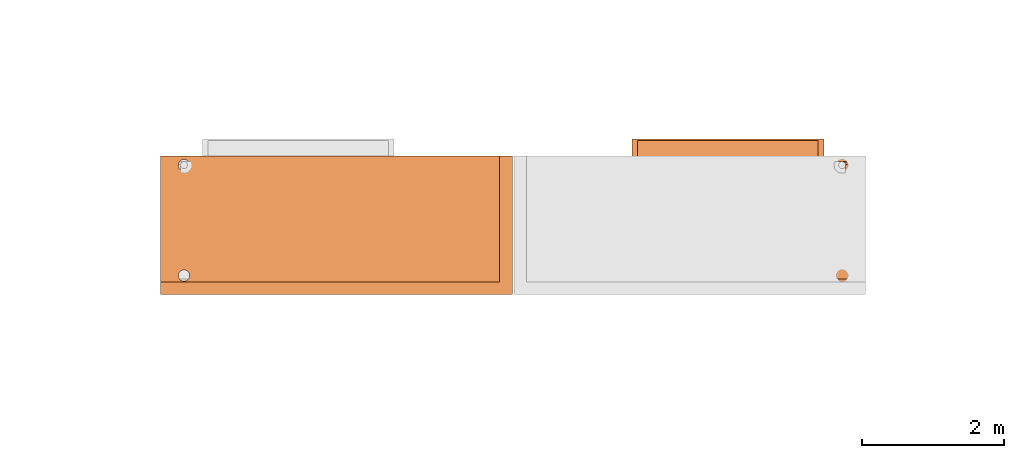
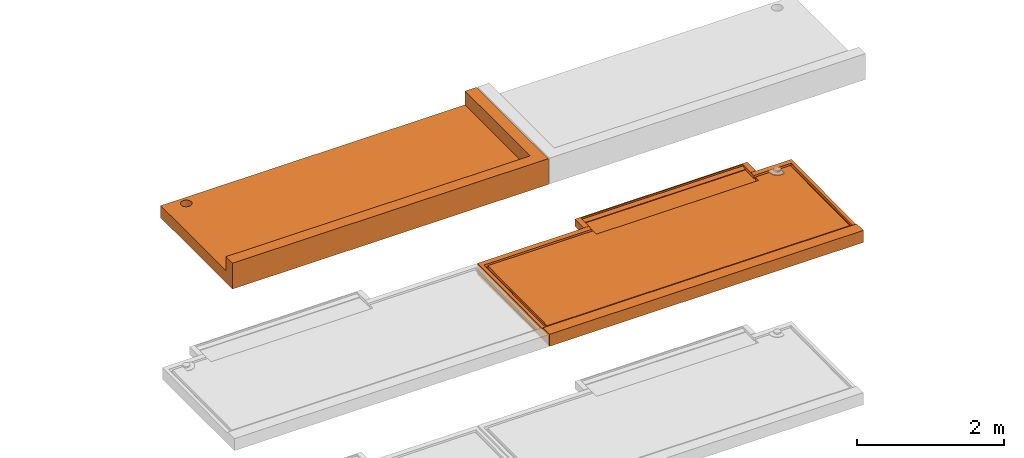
# One storey, part 14 of 31: 2 proxies, 2 elements without a shape of their own.
"""IFC2X3 building model written with IfcOpenShell, lengths in centimetres."""

import ifcopenshell
import ifcopenshell.guid

model = None  # the IFC model being written
_history = None  # IfcOwnerHistory: only IFC2X3 demands one
_inside = {}  # id of a spatial element -> (the spatial element, [elements in it])
_under = {}  # id of a project, library or spatial element -> (it, [spatial elements below it])
_declared = {}  # id of a project -> (the project, [libraries it declares])
_typed = {}  # id of a type object -> (the type object, [elements of that type])
_made_of = {}  # id of a material, layer set ... -> (it, [elements and type objects made of it])


def new_model(schema):
    """Start an empty IFC model of exactly this schema.

    Asked for "IFC4X3", IfcOpenShell would pick the latest addendum, in which some entities
    have other attributes; the version numbers below select the first issue.
    IFC2X3 requires an IfcOwnerHistory on every rooted entity: one is made here for all.
    """
    global model, _history
    if schema == "IFC4X3":
        model = ifcopenshell.file(schema_version=(4, 3, 0, 0))
    else:
        model = ifcopenshell.file(schema=schema)
    _inside.clear()
    _under.clear()
    _declared.clear()
    _typed.clear()
    _made_of.clear()
    _history = None
    if model.schema == "IFC2X3":
        org = make("IfcOrganization", Name="unknown")
        user = make(
            "IfcPersonAndOrganization",
            ThePerson=make("IfcPerson", FamilyName="unknown"),
            TheOrganization=org,
        )
        app = make(
            "IfcApplication",
            ApplicationDeveloper=org,
            Version="unknown",
            ApplicationFullName="unknown",
            ApplicationIdentifier="unknown",
        )
        _history = make(
            "IfcOwnerHistory",
            OwningUser=user,
            OwningApplication=app,
            ChangeAction="ADDED",
            CreationDate=0,
        )
    return model


def make(cls, **values):
    """One entity of the class cls with the attributes given. An attribute that is None is left unset."""
    return model.create_entity(
        cls, **{name: value for name, value in values.items() if value is not None}
    )


def entity(cls, *values):
    """Any entity or typed value of the class cls, its attributes in the order of the schema. None: left unset."""
    e = model.create_entity(cls)
    for i, value in enumerate(values):
        if value is not None:
            e[i] = value
    return e


def rooted(cls, **values):
    """An entity with a GlobalId (a new one), such as an element, a storey or a relation."""
    return make(cls, GlobalId=ifcopenshell.guid.new(), OwnerHistory=_history, **values)


def si_unit(unit_type, name, prefix=None):
    """IfcSIUnit, for example si_unit("LENGTHUNIT", "METRE", prefix="MILLI")."""
    return make("IfcSIUnit", UnitType=unit_type, Prefix=prefix, Name=name)


def converted_unit(unit_type, name, factor, base, dimensions=None, offset=None):
    """IfcConversionBasedUnit, such as the inch: factor (a typed value) times the base unit."""
    return make(
        "IfcConversionBasedUnit"
        if offset is None
        else "IfcConversionBasedUnitWithOffset",
        ConversionOffset=offset,
        Dimensions=None
        if dimensions is None
        else entity("IfcDimensionalExponents", *dimensions),
        UnitType=unit_type,
        Name=name,
        ConversionFactor=make(
            "IfcMeasureWithUnit", ValueComponent=factor, UnitComponent=base
        ),
    )


def derived_unit(unit_type, elements):
    """IfcDerivedUnit: a product of units, each with its exponent."""
    return make(
        "IfcDerivedUnit",
        Elements=[
            make("IfcDerivedUnitElement", Unit=unit, Exponent=power)
            for unit, power in elements
        ],
        UnitType=unit_type,
    )


def assignment(units):
    """IfcUnitAssignment: the units of a project."""
    return None if units is None else make("IfcUnitAssignment", Units=units)


def point(xyz):
    """IfcCartesianPoint."""
    return None if xyz is None else make("IfcCartesianPoint", Coordinates=xyz)


def direction(xyz):
    """IfcDirection."""
    return None if xyz is None else make("IfcDirection", DirectionRatios=xyz)


def frame(location, z_axis=None, x_axis=None):
    """IfcAxis2Placement3D, a coordinate frame: its origin and axes. An axis left out is left unset."""
    return make(
        "IfcAxis2Placement3D",
        Location=point(location),
        Axis=direction(z_axis),
        RefDirection=direction(x_axis),
    )


def origin():
    """The frame at (0, 0, 0) with its axes left unset."""
    return frame((0.0, 0.0, 0.0))


def place(relative_to, where):
    """IfcLocalPlacement: puts the frame where relative to a parent placement (None: the world)."""
    return make(
        "IfcLocalPlacement", PlacementRelTo=relative_to, RelativePlacement=where
    )


def context(
    kind, dimensions, precision=None, world=None, true_north=None, identifier=None
):
    """IfcGeometricRepresentationContext, for example the 3D "Model" context."""
    return make(
        "IfcGeometricRepresentationContext",
        ContextIdentifier=identifier,
        ContextType=kind,
        CoordinateSpaceDimension=dimensions,
        Precision=precision,
        WorldCoordinateSystem=world,
        TrueNorth=true_north,
    )


def subcontext(parent, identifier, kind, view, scale=None):
    """IfcGeometricRepresentationSubContext, for example "Body" below "Model"."""
    return make(
        "IfcGeometricRepresentationSubContext",
        ContextIdentifier=identifier,
        ContextType=kind,
        ParentContext=parent,
        TargetScale=scale,
        TargetView=view,
    )


def project(units=None, contexts=None):
    """IfcProject with its units and contexts."""
    return rooted(
        "IfcProject",
        Name="project",
        RepresentationContexts=contexts,
        UnitsInContext=assignment(units),
    )


def spatial(cls, under=None, at=None, **own):
    """A site, building, storey or space (cls), placed at a placement, below another one or the project."""
    s = rooted(cls, ObjectPlacement=at, **own)
    if under is not None:
        _under.setdefault(under.id(), (under, []))[1].append(s)
    return s


def faces_of(points, faces, orient=None, outer=None):
    """IfcFace entities. A face is a list of loops; a loop is a list of indices into points, from 0.

    orient and outer hold one flag for each loop. By default every Orientation is true, the
    first loop of a face is its IfcFaceOuterBound and the others are IfcFaceBound.
    """
    made = []
    for i, loops in enumerate(faces):
        bounds = []
        for j, loop in enumerate(loops):
            is_outer = j == 0 if outer is None else outer[i][j]
            bounds.append(
                make(
                    "IfcFaceOuterBound" if is_outer else "IfcFaceBound",
                    Bound=make("IfcPolyLoop", Polygon=[points[k] for k in loop]),
                    Orientation=True if orient is None else orient[i][j],
                )
            )
        made.append(make("IfcFace", Bounds=bounds))
    return made


def faceted_brep(points, faces, orient=None, outer=None, voids=None):
    """IfcFacetedBrep: a solid bounded by flat faces; with voids (closed shells), ...WithVoids."""
    shared = [point(p) for p in points]
    hull = make("IfcClosedShell", CfsFaces=faces_of(shared, faces, orient, outer))
    if voids is None:
        return make("IfcFacetedBrep", Outer=hull)
    return make(
        "IfcFacetedBrepWithVoids",
        Outer=hull,
        Voids=[
            make(cls, CfsFaces=faces_of(shared, fs, o, b)) for cls, fs, o, b in voids
        ],
    )


def shape(context_of_items, identifier, shape_type, items):
    """IfcShapeRepresentation: the items that make up one representation, for example the "Body"."""
    return make(
        "IfcShapeRepresentation",
        ContextOfItems=context_of_items,
        RepresentationIdentifier=identifier,
        RepresentationType=shape_type,
        Items=items,
    )


def source(mapping_origin, context_of_items, identifier, shape_type, items):
    """IfcRepresentationMap: a shape defined once, which mapped items show again and again."""
    return make(
        "IfcRepresentationMap",
        MappingOrigin=mapping_origin,
        MappedRepresentation=shape(context_of_items, identifier, shape_type, items),
    )


def transform(
    local_origin,
    x_axis=None,
    y_axis=None,
    z_axis=None,
    scale=None,
    scale2=None,
    scale3=None,
    uniform=True,
):
    """IfcCartesianTransformationOperator3D, or its non-uniform kind. x_axis, y_axis, z_axis: its Axis1, 2, 3."""
    if uniform:
        return make(
            "IfcCartesianTransformationOperator3D",
            Axis1=direction(x_axis),
            Axis2=direction(y_axis),
            LocalOrigin=point(local_origin),
            Scale=scale,
            Axis3=direction(z_axis),
        )
    return make(
        "IfcCartesianTransformationOperator3DnonUniform",
        Axis1=direction(x_axis),
        Axis2=direction(y_axis),
        LocalOrigin=point(local_origin),
        Scale=scale,
        Axis3=direction(z_axis),
        Scale2=scale2,
        Scale3=scale3,
    )


def mapped(mapping_source, mapping_target):
    """IfcMappedItem: shows the shape of a source again, moved by a transform."""
    return make(
        "IfcMappedItem", MappingSource=mapping_source, MappingTarget=mapping_target
    )


def material(Name=None, Category=None):
    """IfcMaterial."""
    return make("IfcMaterial", Name=Name, Category=Category)


def made_of(thing, what):
    """Note that an element or type object is made of a material, layer set ...; save() writes the relation."""
    if what is not None:
        _made_of.setdefault(what.id(), (what, []))[1].append(thing)
    return thing


def type_object(cls, material=None, **own):
    """A type object (cls), such as IfcWallType, which elements share."""
    return made_of(rooted(cls, **own), material)


def type_shapes(of_type, sources):
    """Give a type object the sources (RepresentationMaps) that its elements show as mapped items."""
    of_type.RepresentationMaps = sources


def element(
    cls,
    number,
    at=None,
    inside=None,
    cuts=None,
    type_object=None,
    material=None,
    context=None,
    identifier="Body",
    shape_type=None,
    held_by="IfcProductDefinitionShape",
    body=None,
    shapes=None,
    **own,
):
    """One element of the class cls, such as IfcWall. Its Tag is "e" and its number.

    at: its placement. inside: the storey or other place that contains it. cuts: it is an
    opening in that element (IfcRelVoidsElement). A single representation is given by context,
    identifier, shape_type and body (its items); several are given by shapes. held_by: the class
    of the entity that holds the representations. save() writes the other relations.
    """
    e = rooted(cls, Tag="e%d" % number, ObjectPlacement=at, **own)
    if body is not None:
        shapes = [shape(context, identifier, shape_type, body)]
    if shapes is not None:
        e.Representation = make(held_by, Representations=shapes)
    if inside is not None:
        _inside.setdefault(inside.id(), (inside, []))[1].append(e)
    if cuts is not None:
        rooted(
            "IfcRelVoidsElement", RelatingBuildingElement=cuts, RelatedOpeningElement=e
        )
    if type_object is not None:
        _typed.setdefault(type_object.id(), (type_object, []))[1].append(e)
    return made_of(e, material)


def aggregate(whole, parts):
    """IfcRelAggregates: a whole, such as a stair, and the parts it consists of."""
    return rooted("IfcRelAggregates", RelatingObject=whole, RelatedObjects=parts)


def save(model, path):
    """Write the relations noted so far, then the file.

    IfcRelAggregates (storeys below a building ...), IfcRelContainedInSpatialStructure (elements
    in a storey), IfcRelDefinesByType, IfcRelAssociatesMaterial and IfcRelDeclares: one each for
    every whole, place, type object, material and project.
    """
    for whole, parts in _under.values():
        aggregate(whole, parts)
    for where, things in _inside.values():
        rooted(
            "IfcRelContainedInSpatialStructure",
            RelatedElements=things,
            RelatingStructure=where,
        )
    for kind, things in _typed.values():
        rooted("IfcRelDefinesByType", RelatedObjects=things, RelatingType=kind)
    for what, things in _made_of.values():
        rooted("IfcRelAssociatesMaterial", RelatedObjects=things, RelatingMaterial=what)
    for by, libraries in _declared.values():
        rooted("IfcRelDeclares", RelatingContext=by, RelatedDefinitions=libraries)
    model.write(path)


model = new_model("IFC2X3")

# Units and contexts
model_context = context("Model", 3, precision=0.001, world=origin(), true_north=direction((6.12303176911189e-17, 1.0)))
body_context = subcontext(model_context, "Body", "Model", "MODEL_VIEW")
ifc_project = project(units=[si_unit("LENGTHUNIT", "METRE", prefix="CENTI"), si_unit("AREAUNIT", "SQUARE_METRE"), si_unit("VOLUMEUNIT", "CUBIC_METRE"), converted_unit("PLANEANGLEUNIT", "DEGREE", entity("IfcRatioMeasure", 0.0174532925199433), si_unit("PLANEANGLEUNIT", "RADIAN"), dimensions=[0, 0, 0, 0, 0, 0, 0]), si_unit("MASSUNIT", "GRAM", prefix="KILO"), derived_unit("MASSDENSITYUNIT", [(si_unit("MASSUNIT", "GRAM", prefix="KILO"), 1), (si_unit("LENGTHUNIT", "METRE"), -3)]), si_unit("TIMEUNIT", "SECOND"), si_unit("FREQUENCYUNIT", "HERTZ"), si_unit("THERMODYNAMICTEMPERATUREUNIT", "DEGREE_CELSIUS"), derived_unit("THERMALTRANSMITTANCEUNIT", [(si_unit("MASSUNIT", "GRAM", prefix="KILO"), 1), (si_unit("THERMODYNAMICTEMPERATUREUNIT", "KELVIN"), -1), (si_unit("TIMEUNIT", "SECOND"), -3)]), derived_unit("VOLUMETRICFLOWRATEUNIT", [(si_unit("LENGTHUNIT", "METRE"), 3), (si_unit("TIMEUNIT", "SECOND"), -1)]), si_unit("ELECTRICCURRENTUNIT", "AMPERE"), si_unit("ELECTRICVOLTAGEUNIT", "VOLT"), si_unit("POWERUNIT", "WATT"), si_unit("FORCEUNIT", "NEWTON"), si_unit("ILLUMINANCEUNIT", "LUX"), si_unit("LUMINOUSFLUXUNIT", "LUMEN"), si_unit("LUMINOUSINTENSITYUNIT", "CANDELA"), derived_unit("USERDEFINED", [(si_unit("MASSUNIT", "GRAM", prefix="KILO"), -1), (si_unit("LENGTHUNIT", "METRE"), -2), (si_unit("TIMEUNIT", "SECOND"), 3), (si_unit("LUMINOUSFLUXUNIT", "LUMEN"), 1)]), derived_unit("LINEARVELOCITYUNIT", [(si_unit("LENGTHUNIT", "METRE"), 1), (si_unit("TIMEUNIT", "SECOND"), -1)]), si_unit("PRESSUREUNIT", "PASCAL"), derived_unit("USERDEFINED", [(si_unit("LENGTHUNIT", "METRE"), -2), (si_unit("MASSUNIT", "GRAM", prefix="KILO"), 1), (si_unit("TIMEUNIT", "SECOND"), -2)])], contexts=[model_context])

# Site, building, storey
site_placement = place(None, origin())
site = spatial("IfcSite", under=ifc_project, at=site_placement, Name="Default", CompositionType="ELEMENT")
building_placement = place(site_placement, origin())
building = spatial("IfcBuilding", under=site, at=building_placement, Name="CAGE 03", CompositionType="ELEMENT")
storey_placement = place(building_placement, frame((0.0, 0.0, -400.0)))
storey = spatial("IfcBuildingStorey", under=building, at=storey_placement, Name="±0.00", CompositionType="ELEMENT", Elevation=-400.0)

# Assembly, proxy
assembly_1_placement = place(storey_placement, origin())
assembly_1 = element("IfcElementAssembly", 1, at=assembly_1_placement, inside=storey, Name="Assemblage Modèles génériques:BALCON TYPE 02", ObjectType="Assemblage Modèles génériques:BALCON TYPE 02", AssemblyPlace="NOTDEFINED", PredefinedType="USERDEFINED")
ifc_material = material(Name="Béton, panneaux préfa 30/37")
building_element_proxy_type_1 = type_object("IfcBuildingElementProxyType", Name="balcon préfa type 02", PredefinedType="NOTDEFINED", material=ifc_material)
shared_shape_1 = source(origin(), body_context, "Body", "Brep", [
    faceted_brep([(5.4374433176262, 18.437443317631, 15.0), (488.562556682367, 18.4374433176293, 15.0), (488.562556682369, 187.562556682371, 15.0), (466.045257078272, 187.562556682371, 15.0), (467.059340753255, 186.954798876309, 15.0), (467.902378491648, 186.125930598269, 15.0), (468.527236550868, 185.122293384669, 15.0), (468.89897948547, 184.0, 15.0), (485.0, 184.0, 15.0), (485.0, 22.0, 15.0), (9.0, 22.0, 15.0), (9.0, 184.0, 15.0), (175.0, 184.0, 15.0), (175.0, 177.0, 15.0), (430.0, 177.0, 15.0), (430.0, 184.0, 15.0), (452.543560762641, 184.0, 15.0), (452.850476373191, 185.817467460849, 15.0), (453.44381335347, 187.562556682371, 15.0), (430.0, 187.562556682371, 15.0), (430.0, 211.0, 15.0), (175.0, 211.0, 15.0), (175.0, 187.562556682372, 15.0), (5.43744331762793, 187.562556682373, 15.0), (167.0, 196.0, 20.0), (175.0, 196.0, 20.0), (175.0, 218.0, 20.0), (430.0, 218.0, 20.0), (430.0, 196.0, 20.0), (438.0, 196.0, 20.0), (438.0, 212.0, 20.0), (438.0, 220.0, 20.0), (167.0, 220.0, 20.0), (167.0, 212.0, 20.0), (494.0, 0.0, 20.0), (494.0, 18.0, 20.0), (0.0, 18.0, 20.0), (0.0, 0.0, 20.0), (167.0, 220.0, 8.0), (438.0, 220.0, 8.0), (4.0, 194.0, 0.0), (4.0, 196.0, 0.0), (459.0, 183.0, 0.0), (459.170370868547, 181.705904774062, 0.0), (4.0, 4.0, 0.0), (459.170370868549, 184.294095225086, 0.0), (459.669872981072, 185.499999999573, 0.0), (460.464466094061, 186.535533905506, 0.0), (461.499999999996, 187.330127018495, 0.0), (462.705904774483, 187.829629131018, 0.0), (490.0, 196.0, 0.0), (464.0, 188.0, 0.0), (465.294095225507, 187.829629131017, 0.0), (466.499999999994, 187.330127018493, 0.0), (467.535533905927, 186.535533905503, 0.0), (490.0, 194.0, 0.0), (468.330127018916, 185.499999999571, 0.0), (468.829629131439, 184.294095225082, 0.0), (469.0, 183.0, 0.0), (468.829629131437, 181.705904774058, 0.0), (468.330127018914, 180.499999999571, 0.0), (467.535533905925, 179.464466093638, 0.0), (490.0, 4.0, 0.0), (459.66987298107, 180.499999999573, 0.0), (460.46446609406, 179.464466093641, 0.0), (461.499999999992, 178.669872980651, 0.0), (462.705904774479, 178.170370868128, 0.0), (464.0, 178.0, 0.0), (466.499999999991, 178.669872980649, 0.0), (465.294095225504, 178.170370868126, 0.0), (0.0, 196.0, 0.0), (3.0, 196.0, 0.0), (3.0, 194.0, 0.0), (3.0, 3.0, 0.0), (491.0, 3.0, 0.0), (491.0, 194.0, 0.0), (491.0, 196.0, 0.0), (494.0, 196.0, 0.0), (494.0, 194.0, 0.0), (494.0, 0.0, 0.0), (0.0, 0.0, 0.0), (0.0, 194.0, 0.0), (0.0, 18.1897047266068, 17.83166505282), (5.18970472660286, 18.1897047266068, 17.83166505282), (5.04116008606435, 187.958839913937, 19.5295380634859), (175.0, 187.958839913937, 19.5295380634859), (175.0, 194.0, 19.5899561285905), (175.0, 196.0, 19.6099582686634), (167.0, 196.0, 19.6099582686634), (0.0, 196.0, 19.6099582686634), (0.0, 194.0, 19.5899561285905), (9.0, 22.0, 17.8697720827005), (485.0, 22.0, 17.8697720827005), (485.0, 184.0, 19.4899454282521), (468.898979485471, 184.0, 19.4899454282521), (468.974680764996, 183.502544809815, 19.4849703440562), (469.0, 183.0, 19.4799443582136), (469.0, 172.643842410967, 19.3763717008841), (466.460376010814, 171.766276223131, 19.3675950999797), (463.786434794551, 171.501983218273, 19.3649518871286), (461.124152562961, 171.865391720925, 19.3685863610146), (458.618869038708, 172.836662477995, 19.3783001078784), (456.40735304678, 174.362771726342, 19.3935628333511), (454.610336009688, 176.360405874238, 19.413541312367), (453.325920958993, 178.72050976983, 19.437144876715), (452.624226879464, 181.31424025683, 19.4630849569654), (452.543560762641, 184.0, 19.4899454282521), (430.0, 184.0, 19.4899454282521), (430.0, 174.975098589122, 19.3996867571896), (175.0, 174.975098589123, 19.3996867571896), (175.0, 184.0, 19.4899454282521), (9.0, 184.0, 19.4899454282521), (438.0, 196.0, 19.6099582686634), (430.0, 196.0, 19.6099582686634), (430.0, 194.0, 19.5899561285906), (430.0, 187.958839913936, 19.5295380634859), (453.62407080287, 187.958839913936, 19.5295380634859), (453.633936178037, 187.979429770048, 19.5297439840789), (453.643842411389, 188.0, 19.5299497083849), (464.0, 188.0, 19.5299497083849), (464.320780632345, 187.989699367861, 19.5298466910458), (464.640239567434, 187.958839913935, 19.5295380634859), (488.958839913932, 187.958839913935, 19.5295380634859), (488.810295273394, 18.1897047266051, 17.83166505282), (494.0, 18.1897047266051, 17.83166505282), (494.0, 194.0, 19.5899561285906), (494.0, 196.0, 19.6099582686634), (430.0, 211.0, 15.9713250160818), (430.0, 218.0, 17.4999999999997), (430.0, 177.0, 16.9198129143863), (430.0, 175.0001000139, 16.8998117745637), (453.532066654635, 187.761551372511, 17.2745197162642), (453.578068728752, 187.860195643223, 18.4020288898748), (453.601069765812, 187.90951777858, 18.96578347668), (453.612570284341, 187.934178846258, 19.2476607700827), (453.487940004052, 187.662054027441, 16.137259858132), (465.001449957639, 187.898683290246, 18.8419447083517), (465.357288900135, 187.81225174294, 17.8540276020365), (465.705847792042, 187.700008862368, 16.5710856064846), (4.0, 4.0, 1.46630765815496), (490.0, 4.0, 1.46630765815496), (491.0, 3.0, 1.0), (3.0, 3.0, 1.0), (175.0, 218.0, 17.4999999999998), (167.0, 212.0, 8.0), (438.0, 212.0, 8.0), (438.0, 196.0, 8.0), (167.0, 196.0, 8.0), (491.0, 196.0, 1.0), (490.0, 196.0, 1.46630765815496), (4.0, 196.0, 1.46630765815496), (3.0, 196.0, 1.0), (175.0, 175.000100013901, 16.8998117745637), (175.0, 177.0, 16.9198129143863), (175.0, 211.0, 15.9713250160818), (491.0, 194.0, 1.0), (490.0, 194.0, 1.46630765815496), (3.0, 194.0, 1.0), (4.0, 194.0, 1.46630765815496), (452.735578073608, 185.315771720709, 7.69999999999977), (452.51127287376, 182.490933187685, 7.69999999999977), (452.984546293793, 179.697004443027, 7.69999999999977), (454.12666186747, 177.103628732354, 7.69999999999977), (455.868272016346, 174.868272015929, 7.69999999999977), (458.103628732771, 173.126661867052, 7.69999999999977), (460.697004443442, 171.984546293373, 7.69999999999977), (463.4909331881, 171.51127287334, 7.69999999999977), (466.315771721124, 171.735578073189, 7.69999999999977), (469.0, 172.643842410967, 7.69999999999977), (469.0, 183.0, 7.69999999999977), (468.829629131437, 181.705904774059, 7.69999999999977), (468.330127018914, 180.499999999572, 7.69999999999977), (467.535533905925, 179.464466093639, 7.69999999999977), (466.499999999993, 178.66987298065, 7.69999999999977), (465.294095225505, 178.170370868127, 7.69999999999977), (464.0, 178.0, 7.69999999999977), (462.705904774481, 178.170370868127, 7.69999999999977), (461.499999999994, 178.66987298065, 7.69999999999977), (460.464466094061, 179.464466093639, 7.69999999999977), (459.66987298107, 180.499999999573, 7.69999999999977), (459.170370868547, 181.70590477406, 7.69999999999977), (459.0, 183.0, 7.69999999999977), (459.170370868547, 184.294095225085, 7.69999999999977), (459.66987298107, 185.499999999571, 7.69999999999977), (460.46446609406, 186.535533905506, 7.69999999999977), (461.499999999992, 187.330127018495, 7.69999999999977), (462.705904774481, 187.829629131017, 7.69999999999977), (464.0, 188.0, 7.69999999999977), (453.643842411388, 188.0, 7.69999999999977), (453.643842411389, 188.0, 19.1602666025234), (453.643842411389, 188.0, 18.7905765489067), (453.643842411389, 188.0, 18.0512103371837), (453.643842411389, 188.0, 16.5724640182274), (453.643842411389, 188.0, 15.0937176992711), (453.643842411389, 188.0, 13.6149713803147)], [[[0, 1, 2, 3, 4, 5, 6, 7, 8, 9, 10, 11, 12, 13, 14, 15, 16, 17, 18, 19, 20, 21, 22, 23]], [[24, 25, 26, 27, 28, 29, 30, 31, 32, 33]], [[34, 35, 36, 37]], [[38, 32, 31, 39]], [[40, 41, 42]], [[43, 40, 42]], [[43, 44, 40]], [[42, 41, 45]], [[45, 41, 46]], [[47, 46, 41]], [[48, 47, 41]], [[49, 48, 41]], [[41, 50, 49]], [[51, 49, 50]], [[52, 51, 50]], [[53, 52, 50]], [[50, 54, 53]], [[50, 55, 54]], [[56, 54, 55]], [[55, 57, 56]], [[58, 57, 55]], [[59, 58, 55]], [[55, 60, 59]], [[60, 55, 61]], [[61, 55, 62]], [[62, 44, 63]], [[62, 63, 64]], [[62, 64, 65]], [[62, 65, 66]], [[62, 66, 67]], [[61, 62, 68]], [[69, 68, 62]], [[69, 62, 67]], [[63, 44, 43]], [[70, 71, 72, 73, 74, 75, 76, 77, 78, 79, 80, 81]], [[37, 80, 79, 34]], [[82, 83, 84, 85, 86, 87, 88, 89, 90]], [[91, 92, 93, 94, 95, 96, 97, 98, 99, 100, 101, 102, 103, 104, 105, 106, 107, 108, 109, 110, 111]], [[112, 113, 114, 115, 116, 117, 118, 119, 120, 121, 122, 123, 124, 125, 126]], [[78, 77, 126, 125, 124, 35, 34, 79]], [[123, 1, 0, 83, 82, 36, 35, 124]], [[127, 20, 19, 115, 114, 113, 28, 27, 128]], [[107, 15, 14, 129, 130, 108]], [[85, 84, 23, 22]], [[131, 132, 133, 134, 116, 115, 19, 18, 135]], [[122, 121, 136, 137, 138, 3, 2]], [[10, 9, 92, 91]], [[139, 140, 141, 142]], [[26, 143, 128, 27]], [[144, 38, 39, 145, 146, 147]], [[89, 88, 147, 146, 112, 126, 77, 76, 148, 149, 50, 41, 150, 151, 71, 70]], [[152, 109, 108, 130]], [[153, 152, 130, 129]], [[13, 153, 129, 14]], [[80, 37, 36, 82, 90, 89, 70, 81]], [[143, 26, 25, 87, 86, 85, 22, 21, 154]], [[110, 109, 152, 153, 13, 12]], [[12, 11, 111, 110]], [[16, 15, 107, 106]], [[8, 7, 94, 93]], [[142, 141, 74, 73]], [[139, 44, 62, 140]], [[143, 154, 127, 128]], [[154, 21, 20, 127]], [[11, 10, 91, 111]], [[23, 84, 83, 0]], [[29, 28, 113, 112]], [[25, 24, 88, 87]], [[76, 75, 74, 141, 155, 148]], [[156, 140, 62, 55, 50, 149]], [[155, 141, 140, 156, 149, 148]], [[73, 72, 71, 151, 157, 142]], [[158, 150, 41, 40, 44, 139]], [[139, 142, 157, 151, 150, 158]], [[92, 9, 8, 93]], [[123, 122, 2, 1]], [[30, 29, 112, 146, 145, 39, 31]], [[33, 32, 38, 144, 147, 88, 24]], [[159, 160, 161, 162, 163, 164, 165, 166, 167, 168, 169, 170, 171, 172, 173, 174, 175, 176, 177, 178, 179, 180, 181, 182, 183, 184, 185, 186, 187, 188]], [[187, 119, 118, 189, 190, 191, 192, 193, 194, 188]], [[194, 18, 17]], [[159, 188, 17]], [[134, 189, 117]], [[135, 192, 131]], [[105, 160, 16]], [[17, 16, 159]], [[160, 159, 16]], [[105, 161, 160]], [[117, 116, 134]], [[189, 133, 190]], [[132, 191, 190]], [[16, 106, 105]], [[104, 161, 105]], [[133, 132, 190]], [[134, 133, 189]], [[188, 194, 17]], [[104, 162, 161]], [[163, 162, 103]], [[163, 102, 164]], [[99, 167, 166]], [[166, 165, 100]], [[165, 164, 101]], [[168, 167, 98]], [[132, 131, 191]], [[163, 103, 102]], [[164, 102, 101]], [[18, 193, 135]], [[18, 194, 193]], [[167, 99, 98]], [[118, 117, 189]], [[192, 191, 131]], [[97, 168, 98]], [[166, 100, 99]], [[100, 165, 101]], [[192, 135, 193]], [[104, 103, 162]], [[169, 168, 97, 96]], [[48, 49, 186, 185]], [[48, 185, 184, 47]], [[45, 46, 183, 182]], [[184, 183, 46, 47]], [[42, 45, 182, 181]], [[51, 187, 186, 49]], [[63, 43, 180, 179]], [[63, 179, 178, 64]], [[66, 65, 177, 176]], [[178, 177, 65, 64]], [[67, 66, 176, 175]], [[181, 180, 43, 42]], [[174, 69, 67, 175]], [[68, 69, 174, 173]], [[171, 170, 59, 60]], [[60, 61, 172, 171]], [[61, 68, 173, 172]], [[58, 59, 170, 169]], [[96, 95, 169]], [[7, 169, 95]], [[94, 7, 95]], [[57, 169, 7]], [[57, 58, 169]], [[6, 56, 57]], [[56, 6, 5]], [[5, 54, 56]], [[187, 51, 52]], [[53, 54, 4]], [[53, 3, 52]], [[5, 4, 54]], [[52, 136, 187]], [[53, 4, 3]], [[3, 138, 52]], [[136, 52, 137]], [[136, 121, 187]], [[137, 52, 138]], [[121, 120, 187]], [[187, 120, 119]], [[57, 7, 6]]]),
])
type_shapes(building_element_proxy_type_1, [shared_shape_1])
proxy_1_placement = place(assembly_1_placement, frame((8789.36582014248, 4474.66066607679, 990.0)))
proxy_1 = element("IfcBuildingElementProxy", 2, at=proxy_1_placement, type_object=building_element_proxy_type_1, material=ifc_material, Name="BY_STR_Balcon_préfa_02:balcon préfa type 02", ObjectType="balcon préfa type 02", context=body_context, shape_type="MappedRepresentation", body=[
    mapped(shared_shape_1, transform((0.0, 0.0, 0.0), scale=1.0)),
])
aggregate(assembly_1, [proxy_1])

assembly_2_placement = place(storey_placement, origin())
assembly_2 = element("IfcElementAssembly", 3, at=assembly_2_placement, inside=storey, Name="Assemblage Modèles génériques:BALCON TYPE 09", ObjectType="Assemblage Modèles génériques:BALCON TYPE 09", AssemblyPlace="NOTDEFINED", PredefinedType="USERDEFINED")
building_element_proxy_type_2 = type_object("IfcBuildingElementProxyType", Name="balcon préfa type 09", PredefinedType="NOTDEFINED", material=ifc_material)
shared_shape_2 = source(origin(), body_context, "Body", "Brep", [
    faceted_brep([(2.0, 3.0, 0.0), (494.0, 3.0, 0.0), (494.0, 194.0, 0.0), (494.0, 196.0, 0.0), (497.0, 196.0, 0.0), (497.0, 194.0, 0.0), (497.0, 0.0, 0.0), (2.0, 0.0, 0.0), (0.0, 0.0, 0.0), (0.0, 3.0, 0.0), (2.0, 196.0, 0.0), (26.0717967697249, 179.0, 0.0), (0.0, 196.0, 0.0), (25.2725933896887, 180.929447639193, 0.0), (25.0, 183.0, 0.0), (25.2725933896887, 185.070552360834, 0.0), (26.0717967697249, 187.0, 0.0), (27.3431457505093, 188.656854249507, 0.0), (29.0, 189.928203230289, 0.0), (30.9294476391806, 190.727406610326, 0.0), (33.0, 191.0, 0.0), (35.0705523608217, 190.727406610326, 0.0), (493.0, 196.0, 0.0), (37.0, 189.928203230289, 0.0), (38.6568542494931, 188.656854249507, 0.0), (39.9282032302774, 187.0, 0.0), (40.7274066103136, 185.070552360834, 0.0), (41.0, 183.0, 0.0), (493.0, 194.0, 0.0), (40.7274066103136, 180.929447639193, 0.0), (40.7274066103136, 29.0705523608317, 0.0), (493.0, 4.0, 0.0), (41.0, 27.0, 0.0), (40.7274066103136, 24.9294476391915, 0.0), (39.9282032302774, 23.0, 0.0), (38.6568542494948, 21.3431457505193, 0.0), (37.0, 20.0717967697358, 0.0), (2.0, 4.0, 0.0), (35.0705523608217, 19.2725933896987, 0.0), (33.0, 19.0, 0.0), (30.9294476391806, 19.2725933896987, 0.0), (29.0, 20.0717967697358, 0.0), (27.3431457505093, 21.3431457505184, 0.0), (26.0717967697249, 23.0, 0.0), (25.2725933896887, 24.9294476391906, 0.0), (25.0, 27.0, 0.0), (0.0, 4.0, 0.0), (25.2725933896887, 29.0705523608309, 0.0), (26.0717967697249, 31.0, 0.0), (27.3431457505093, 32.6568542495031, 0.0), (39.9282032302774, 179.0, 0.0), (39.9282032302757, 31.0, 0.0), (38.6568542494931, 32.6568542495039, 0.0), (38.6568542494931, 177.343145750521, 0.0), (37.0, 33.9282032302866, 0.0), (37.0, 176.071796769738, 0.0), (35.07055236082, 34.7274066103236, 0.0), (35.0705523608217, 175.272593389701, 0.0), (33.0, 35.0, 0.0), (33.0, 175.0, 0.0), (30.9294476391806, 34.7274066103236, 0.0), (30.9294476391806, 175.272593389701, 0.0), (29.0, 33.9282032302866, 0.0), (29.0, 176.071796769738, 0.0), (27.3431457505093, 177.343145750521, 0.0), (494.0, 196.0, 1.0), (493.0, 196.0, 1.46630765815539), (0.0, 196.0, 20.0), (2.0, 196.0, 20.0), (479.0, 196.0, 20.0), (479.0, 196.0, 43.0), (497.0, 196.0, 43.0), (497.0, 196.0, 20.0), (0.0, 3.0, 1.0), (2.0, 3.0, 1.0), (494.0, 3.0, 1.0), (493.0, 4.0, 1.46630765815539), (2.0, 4.0, 1.46630765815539), (0.0, 4.0, 1.46630765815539), (494.0, 194.0, 1.0), (479.0, 18.0, 20.0), (479.0, 18.0, 43.0), (497.0, 0.0, 43.0), (493.0, 194.0, 1.46630765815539), (2.0, 18.0, 20.0), (0.0, 18.0, 20.0), (0.0, 18.0, 43.0), (2.0, 18.0, 43.0), (2.0, 0.0, 43.0), (0.0, 0.0, 43.0), (0.0, 0.0, 20.0), (26.0717967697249, 31.0, 20.0), (25.2725933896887, 29.0705523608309, 20.0), (25.0, 27.0, 20.0), (25.2725933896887, 24.9294476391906, 20.0), (26.0717967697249, 23.0, 20.0), (27.3431457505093, 21.3431457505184, 20.0), (29.0, 20.0717967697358, 20.0), (30.9294476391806, 19.2725933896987, 20.0), (33.0, 19.0, 20.0), (35.0705523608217, 19.2725933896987, 20.0), (37.0, 20.0717967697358, 20.0), (38.6568542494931, 21.3431457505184, 20.0), (39.9282032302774, 23.0, 20.0), (40.7274066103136, 24.9294476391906, 20.0), (41.0, 27.0, 20.0), (40.7274066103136, 29.0705523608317, 20.0), (40.7274066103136, 180.929447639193, 20.0), (41.0, 183.0, 20.0), (40.7274066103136, 185.070552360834, 20.0), (39.9282032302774, 187.0, 20.0), (38.6568542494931, 188.656854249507, 20.0), (37.0, 189.928203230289, 20.0), (35.0705523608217, 190.727406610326, 20.0), (33.0, 191.0, 20.0), (30.9294476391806, 190.727406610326, 20.0), (29.0, 189.928203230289, 20.0), (27.3431457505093, 188.656854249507, 20.0), (26.0717967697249, 187.0, 20.0), (25.2725933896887, 185.070552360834, 20.0), (25.0, 183.0, 20.0), (25.2725933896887, 180.929447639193, 20.0), (26.0717967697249, 179.0, 20.0), (27.3431457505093, 177.343145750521, 20.0), (27.3431457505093, 32.6568542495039, 20.0), (29.0, 33.9282032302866, 20.0), (29.0, 176.071796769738, 20.0), (30.9294476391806, 34.7274066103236, 20.0), (30.9294476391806, 175.272593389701, 20.0), (33.0, 35.0, 20.0), (33.0, 175.0, 20.0), (35.0705523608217, 34.7274066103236, 20.0), (35.0705523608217, 175.272593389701, 20.0), (37.0, 33.9282032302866, 20.0), (37.0, 176.071796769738, 20.0), (38.6568542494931, 32.6568542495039, 20.0), (38.6568542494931, 177.343145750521, 20.0), (39.9282032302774, 31.0, 20.0), (39.9282032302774, 179.0, 20.0)], [[[0, 1, 2, 3, 4, 5, 6, 7, 8, 9]], [[0, 1, 7]], [[7, 9, 0]], [[1, 6, 7]], [[5, 6, 1]], [[5, 1, 2]], [[5, 2, 3]], [[3, 4, 5]], [[8, 9, 7]], [[10, 11, 12]], [[11, 10, 13]], [[14, 13, 10]], [[15, 14, 10]], [[15, 10, 16]], [[16, 10, 17]], [[18, 17, 10]], [[19, 18, 10]], [[20, 19, 10]], [[10, 21, 20]], [[21, 10, 22]], [[23, 21, 22]], [[24, 23, 22]], [[22, 25, 24]], [[26, 25, 22]], [[26, 22, 27]], [[27, 22, 28]], [[29, 27, 28]], [[28, 30, 29]], [[31, 30, 28]], [[31, 32, 30]], [[32, 31, 33]], [[34, 33, 31]], [[34, 31, 35]], [[36, 35, 31]], [[36, 31, 37]], [[36, 37, 38]], [[38, 37, 39]], [[37, 40, 39]], [[41, 40, 37]], [[42, 41, 37]], [[37, 43, 42]], [[44, 43, 37]], [[45, 44, 37]], [[46, 45, 37]], [[47, 45, 46]], [[48, 47, 46]], [[46, 12, 48]], [[49, 48, 12]], [[30, 50, 29]], [[51, 50, 30]], [[52, 50, 51]], [[50, 52, 53]], [[54, 53, 52]], [[54, 55, 53]], [[56, 55, 54]], [[56, 57, 55]], [[58, 57, 56]], [[58, 59, 57]], [[58, 60, 59]], [[59, 60, 61]], [[62, 61, 60]], [[62, 49, 63]], [[62, 63, 61]], [[11, 64, 12]], [[12, 64, 49]], [[49, 64, 63]], [[3, 65, 66, 22, 10, 12, 67, 68, 69, 70, 71, 72, 4]], [[0, 9, 73, 74, 75, 1]], [[37, 31, 76, 77, 78, 46]], [[76, 75, 74, 73, 78, 77]], [[3, 2, 1, 75, 79, 65]], [[70, 69, 80, 81]], [[72, 71, 82, 6, 5, 4]], [[65, 79, 75, 76, 83, 66]], [[81, 80, 84, 85, 86, 87]], [[6, 82, 88, 89, 90, 8, 7]], [[9, 8, 90, 89, 86, 85, 67, 12, 46, 78, 73]], [[84, 91, 85]], [[91, 84, 92]], [[93, 92, 84]], [[94, 93, 84]], [[94, 84, 95]], [[95, 84, 96]], [[97, 96, 84]], [[98, 97, 84]], [[99, 98, 84]], [[84, 80, 99]], [[100, 99, 80]], [[101, 100, 80]], [[102, 101, 80]], [[80, 103, 102]], [[103, 80, 104]], [[104, 80, 105]], [[106, 105, 80]], [[80, 107, 106]], [[69, 107, 80]], [[69, 108, 107]], [[108, 69, 109]], [[110, 109, 69]], [[110, 69, 111]], [[112, 111, 69]], [[113, 112, 69]], [[113, 69, 68]], [[113, 68, 114]], [[68, 115, 114]], [[116, 115, 68]], [[117, 116, 68]], [[68, 118, 117]], [[119, 118, 68]], [[120, 119, 68]], [[121, 120, 68]], [[122, 121, 68]], [[67, 122, 68]], [[122, 67, 123]], [[123, 67, 85]], [[85, 124, 123]], [[91, 124, 85]], [[123, 124, 125]], [[126, 123, 125]], [[127, 126, 125]], [[126, 127, 128]], [[129, 128, 127]], [[130, 128, 129]], [[130, 129, 131]], [[130, 131, 132]], [[132, 131, 133]], [[132, 133, 134]], [[135, 134, 133]], [[134, 135, 136]], [[136, 135, 137]], [[107, 137, 106]], [[136, 137, 138]], [[138, 137, 107]], [[83, 76, 31, 28, 22, 66]], [[81, 87, 86, 89, 88, 82, 71, 70]], [[119, 15, 16, 118]], [[17, 117, 118, 16]], [[116, 18, 19, 115]], [[17, 18, 116, 117]], [[115, 19, 20, 114]], [[15, 119, 120, 14]], [[113, 21, 23, 112]], [[24, 111, 112, 23]], [[110, 25, 26, 109]], [[24, 25, 110, 111]], [[109, 26, 27, 108]], [[21, 113, 114, 20]], [[27, 29, 107, 108]], [[134, 55, 57, 132]], [[55, 134, 136, 53]], [[59, 130, 132, 57]], [[107, 29, 50, 138]], [[50, 53, 136, 138]], [[128, 61, 63, 126]], [[64, 123, 126, 63]], [[122, 11, 13, 121]], [[64, 11, 122, 123]], [[121, 13, 14, 120]], [[61, 128, 130, 59]], [[92, 47, 48, 91]], [[49, 124, 91, 48]], [[125, 62, 60, 127]], [[49, 62, 125, 124]], [[127, 60, 58, 129]], [[47, 92, 93, 45]], [[131, 56, 54, 133]], [[52, 135, 133, 54]], [[137, 51, 30, 106]], [[52, 51, 137, 135]], [[106, 30, 32, 105]], [[56, 131, 129, 58]], [[32, 33, 104, 105]], [[101, 36, 38, 100]], [[36, 101, 102, 35]], [[39, 99, 100, 38]], [[104, 33, 34, 103]], [[34, 35, 102, 103]], [[98, 40, 41, 97]], [[42, 96, 97, 41]], [[95, 43, 44, 94]], [[42, 43, 95, 96]], [[94, 44, 45, 93]], [[40, 98, 99, 39]]]),
])
type_shapes(building_element_proxy_type_2, [shared_shape_2])
proxy_2_placement = place(assembly_2_placement, frame((8290.36582014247, 4474.66066607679, 1260.0)))
proxy_2 = element("IfcBuildingElementProxy", 4, at=proxy_2_placement, type_object=building_element_proxy_type_2, material=ifc_material, Name="BY_STR_Balcon_préfa_09-10:balcon préfa type 09", ObjectType="balcon préfa type 09", context=body_context, shape_type="MappedRepresentation", body=[
    mapped(shared_shape_2, transform((0.0, 0.0, 0.0), scale=1.0)),
])
aggregate(assembly_2, [proxy_2])

save(model, "model.ifc")
